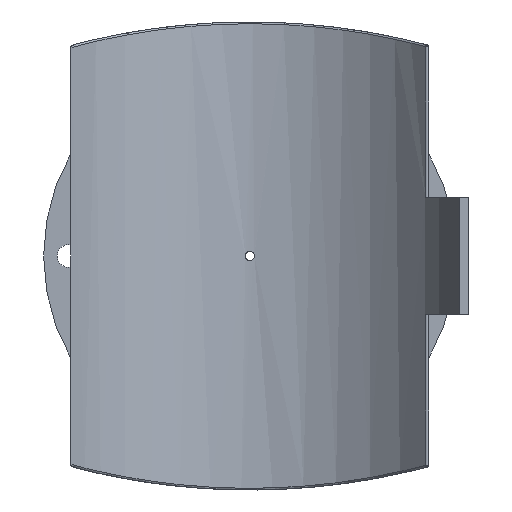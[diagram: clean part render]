
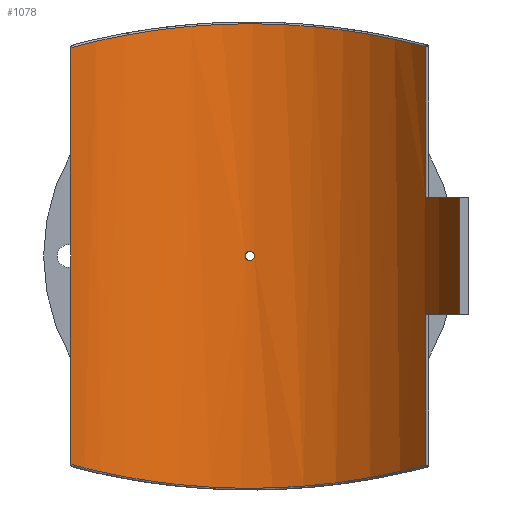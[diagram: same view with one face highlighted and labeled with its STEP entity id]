
A CAD part, front view. The second image highlights one B-rep face of the part: STEP entity #1078.
In plain terms, the highlighted cylindrical face has radius 250 mm (diameter 500 mm), a partial arc.
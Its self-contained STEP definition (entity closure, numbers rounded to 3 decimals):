
#55=FACE_BOUND('',#355,.T.);
#109=B_SPLINE_CURVE_WITH_KNOTS('',3,(#2208,#2209,#2210,#2211,#2212,#2213,
#2214,#2215,#2216,#2217),.UNSPECIFIED.,.F.,.F.,(4,1,1,1,1,1,1,4),(-55.889,
-49.127,-42.365,-35.603,-28.84,
-22.078,-15.316,-8.554),.UNSPECIFIED.);
#110=B_SPLINE_CURVE_WITH_KNOTS('',3,(#2226,#2227,#2228,#2229,#2230,#2231,
#2232,#2233,#2234,#2235),.UNSPECIFIED.,.F.,.F.,(4,1,1,1,1,1,1,4),(-52.417,
-45.655,-38.893,-32.13,-25.368,
-18.606,-11.844,-5.082),.UNSPECIFIED.);
#111=B_SPLINE_CURVE_WITH_KNOTS('',3,(#2238,#2239,#2240,#2241,#2242,#2243,
#2244,#2245,#2246,#2247),.UNSPECIFIED.,.F.,.F.,(4,2,2,2,4),(0.,0.196,
0.392,0.588,0.784),.UNSPECIFIED.);
#112=B_SPLINE_CURVE_WITH_KNOTS('',3,(#2248,#2249,#2250,#2251,#2252,#2253,
#2254,#2255,#2256,#2257,#2258,#2259,#2260,#2261,#2262,#2263,#2264,#2265,
#2266,#2267,#2268,#2269,#2270,#2271,#2272,#2273),.UNSPECIFIED.,.F.,.F.,
(4,2,2,2,2,2,2,2,2,2,2,2,4),(0.784,0.979,1.175,
1.371,1.567,1.763,1.959,2.155,
2.351,2.546,2.742,2.938,3.134),
 .UNSPECIFIED.);
#133=LINE('',#1615,#184);
#144=LINE('',#1907,#195);
#151=LINE('',#2222,#202);
#152=LINE('',#2225,#203);
#184=VECTOR('',#1292,10.);
#195=VECTOR('',#1331,10.);
#202=VECTOR('',#1368,10.);
#203=VECTOR('',#1371,10.);
#244=CYLINDRICAL_SURFACE('',#1175,250.);
#288=FACE_OUTER_BOUND('',#354,.T.);
#354=EDGE_LOOP('',(#839,#840,#841,#842,#843,#844,#845,#846));
#355=EDGE_LOOP('',(#847,#848));
#449=CIRCLE('',#1176,250.);
#450=CIRCLE('',#1177,250.);
#510=VERTEX_POINT('',#1606);
#513=VERTEX_POINT('',#1613);
#533=VERTEX_POINT('',#1900);
#536=VERTEX_POINT('',#1905);
#549=VERTEX_POINT('',#2199);
#550=VERTEX_POINT('',#2219);
#551=VERTEX_POINT('',#2221);
#552=VERTEX_POINT('',#2224);
#553=VERTEX_POINT('',#2236);
#554=VERTEX_POINT('',#2237);
#613=EDGE_CURVE('',#513,#510,#133,.T.);
#643=EDGE_CURVE('',#536,#533,#144,.T.);
#666=EDGE_CURVE('',#549,#536,#109,.T.);
#667=EDGE_CURVE('',#550,#513,#449,.T.);
#668=EDGE_CURVE('',#550,#551,#151,.T.);
#669=EDGE_CURVE('',#533,#551,#450,.T.);
#670=EDGE_CURVE('',#552,#549,#152,.T.);
#671=EDGE_CURVE('',#510,#552,#110,.T.);
#672=EDGE_CURVE('',#553,#554,#111,.T.);
#673=EDGE_CURVE('',#554,#553,#112,.T.);
#839=ORIENTED_EDGE('',*,*,#667,.F.);
#840=ORIENTED_EDGE('',*,*,#668,.T.);
#841=ORIENTED_EDGE('',*,*,#669,.F.);
#842=ORIENTED_EDGE('',*,*,#643,.F.);
#843=ORIENTED_EDGE('',*,*,#666,.F.);
#844=ORIENTED_EDGE('',*,*,#670,.F.);
#845=ORIENTED_EDGE('',*,*,#671,.F.);
#846=ORIENTED_EDGE('',*,*,#613,.F.);
#847=ORIENTED_EDGE('',*,*,#672,.T.);
#848=ORIENTED_EDGE('',*,*,#673,.T.);
#1078=ADVANCED_FACE('',(#288,#55),#244,.F.);
#1175=AXIS2_PLACEMENT_3D('',#2218,#1364,#1365);
#1176=AXIS2_PLACEMENT_3D('',#2220,#1366,#1367);
#1177=AXIS2_PLACEMENT_3D('',#2223,#1369,#1370);
#1292=DIRECTION('',(0.,0.,-1.));
#1331=DIRECTION('',(0.,0.,-1.));
#1364=DIRECTION('center_axis',(0.,0.,1.));
#1365=DIRECTION('ref_axis',(-1.,0.,0.));
#1366=DIRECTION('center_axis',(0.,0.,1.));
#1367=DIRECTION('ref_axis',(-0.948,-0.319,0.));
#1368=DIRECTION('',(0.,0.,1.));
#1369=DIRECTION('center_axis',(0.,0.,-1.));
#1370=DIRECTION('ref_axis',(-0.948,-0.319,0.));
#1371=DIRECTION('',(0.,0.,1.));
#1606=CARTESIAN_POINT('',(198.909,151.444,-236.961));
#1613=CARTESIAN_POINT('',(198.909,151.444,-66.25));
#1615=CARTESIAN_POINT('',(198.909,151.444,0.));
#1900=CARTESIAN_POINT('',(198.909,151.444,66.25));
#1905=CARTESIAN_POINT('',(198.909,151.444,236.961));
#1907=CARTESIAN_POINT('',(198.909,151.444,0.));
#2199=CARTESIAN_POINT('',(-202.5,146.607,235.996));
#2208=CARTESIAN_POINT('Ctrl Pts',(-202.5,146.607,235.996));
#2209=CARTESIAN_POINT('Ctrl Pts',(-189.546,164.5,239.512));
#2210=CARTESIAN_POINT('Ctrl Pts',(-158.938,196.763,247.096));
#2211=CARTESIAN_POINT('Ctrl Pts',(-101.772,231.604,257.11));
#2212=CARTESIAN_POINT('Ctrl Pts',(-36.939,250.309,263.092));
#2213=CARTESIAN_POINT('Ctrl Pts',(30.821,251.141,263.37));
#2214=CARTESIAN_POINT('Ctrl Pts',(96.13,234.005,257.854));
#2215=CARTESIAN_POINT('Ctrl Pts',(154.158,200.533,248.108));
#2216=CARTESIAN_POINT('Ctrl Pts',(185.532,169.013,240.524));
#2217=CARTESIAN_POINT('Ctrl Pts',(198.909,151.444,236.961));
#2218=CARTESIAN_POINT('Origin',(0.,0.,0.));
#2219=CARTESIAN_POINT('',(236.954,79.703,-66.25));
#2220=CARTESIAN_POINT('Origin',(0.,0.,
-66.25));
#2221=CARTESIAN_POINT('',(236.954,79.703,66.25));
#2222=CARTESIAN_POINT('',(236.954,79.703,0.));
#2223=CARTESIAN_POINT('Origin',(0.,0.,
66.25));
#2224=CARTESIAN_POINT('',(-202.5,146.607,-235.996));
#2225=CARTESIAN_POINT('',(-202.5,146.607,0.));
#2226=CARTESIAN_POINT('Ctrl Pts',(198.909,151.444,-236.961));
#2227=CARTESIAN_POINT('Ctrl Pts',(185.532,169.013,-240.524));
#2228=CARTESIAN_POINT('Ctrl Pts',(154.158,200.533,-248.108));
#2229=CARTESIAN_POINT('Ctrl Pts',(96.131,234.005,-257.854));
#2230=CARTESIAN_POINT('Ctrl Pts',(30.821,251.141,-263.37));
#2231=CARTESIAN_POINT('Ctrl Pts',(-36.939,250.31,-263.092));
#2232=CARTESIAN_POINT('Ctrl Pts',(-101.772,231.604,-257.11));
#2233=CARTESIAN_POINT('Ctrl Pts',(-158.938,196.763,-247.096));
#2234=CARTESIAN_POINT('Ctrl Pts',(-189.546,164.5,-239.512));
#2235=CARTESIAN_POINT('Ctrl Pts',(-202.5,146.607,-235.996));
#2236=CARTESIAN_POINT('',(5.2,249.946,0.));
#2237=CARTESIAN_POINT('',(0.,250.,-5.2));
#2238=CARTESIAN_POINT('Ctrl Pts',(5.2,249.946,0.));
#2239=CARTESIAN_POINT('Ctrl Pts',(5.2,249.946,-0.653));
#2240=CARTESIAN_POINT('Ctrl Pts',(5.07,249.949,-1.349));
#2241=CARTESIAN_POINT('Ctrl Pts',(4.539,249.959,-2.631));
#2242=CARTESIAN_POINT('Ctrl Pts',(4.139,249.966,-3.215));
#2243=CARTESIAN_POINT('Ctrl Pts',(3.215,249.98,-4.139));
#2244=CARTESIAN_POINT('Ctrl Pts',(2.631,249.987,-4.539));
#2245=CARTESIAN_POINT('Ctrl Pts',(1.349,249.997,-5.07));
#2246=CARTESIAN_POINT('Ctrl Pts',(0.653,250.,-5.2));
#2247=CARTESIAN_POINT('Ctrl Pts',(0.,250.,-5.2));
#2248=CARTESIAN_POINT('Ctrl Pts',(0.,250.,-5.2));
#2249=CARTESIAN_POINT('Ctrl Pts',(-0.653,250.,-5.2));
#2250=CARTESIAN_POINT('Ctrl Pts',(-1.349,249.997,-5.07));
#2251=CARTESIAN_POINT('Ctrl Pts',(-2.631,249.987,-4.539));
#2252=CARTESIAN_POINT('Ctrl Pts',(-3.215,249.98,-4.139));
#2253=CARTESIAN_POINT('Ctrl Pts',(-4.139,249.966,-3.215));
#2254=CARTESIAN_POINT('Ctrl Pts',(-4.539,249.959,-2.631));
#2255=CARTESIAN_POINT('Ctrl Pts',(-5.07,249.949,-1.349));
#2256=CARTESIAN_POINT('Ctrl Pts',(-5.2,249.946,-0.653));
#2257=CARTESIAN_POINT('Ctrl Pts',(-5.2,249.946,0.653));
#2258=CARTESIAN_POINT('Ctrl Pts',(-5.07,249.949,1.349));
#2259=CARTESIAN_POINT('Ctrl Pts',(-4.539,249.959,2.631));
#2260=CARTESIAN_POINT('Ctrl Pts',(-4.139,249.966,3.215));
#2261=CARTESIAN_POINT('Ctrl Pts',(-3.215,249.98,4.139));
#2262=CARTESIAN_POINT('Ctrl Pts',(-2.631,249.987,4.539));
#2263=CARTESIAN_POINT('Ctrl Pts',(-1.349,249.997,5.07));
#2264=CARTESIAN_POINT('Ctrl Pts',(-0.653,250.,5.2));
#2265=CARTESIAN_POINT('Ctrl Pts',(0.653,250.,5.2));
#2266=CARTESIAN_POINT('Ctrl Pts',(1.349,249.997,5.07));
#2267=CARTESIAN_POINT('Ctrl Pts',(2.631,249.987,4.539));
#2268=CARTESIAN_POINT('Ctrl Pts',(3.215,249.98,4.139));
#2269=CARTESIAN_POINT('Ctrl Pts',(4.139,249.966,3.215));
#2270=CARTESIAN_POINT('Ctrl Pts',(4.539,249.959,2.631));
#2271=CARTESIAN_POINT('Ctrl Pts',(5.07,249.949,1.349));
#2272=CARTESIAN_POINT('Ctrl Pts',(5.2,249.946,0.653));
#2273=CARTESIAN_POINT('Ctrl Pts',(5.2,249.946,0.));
